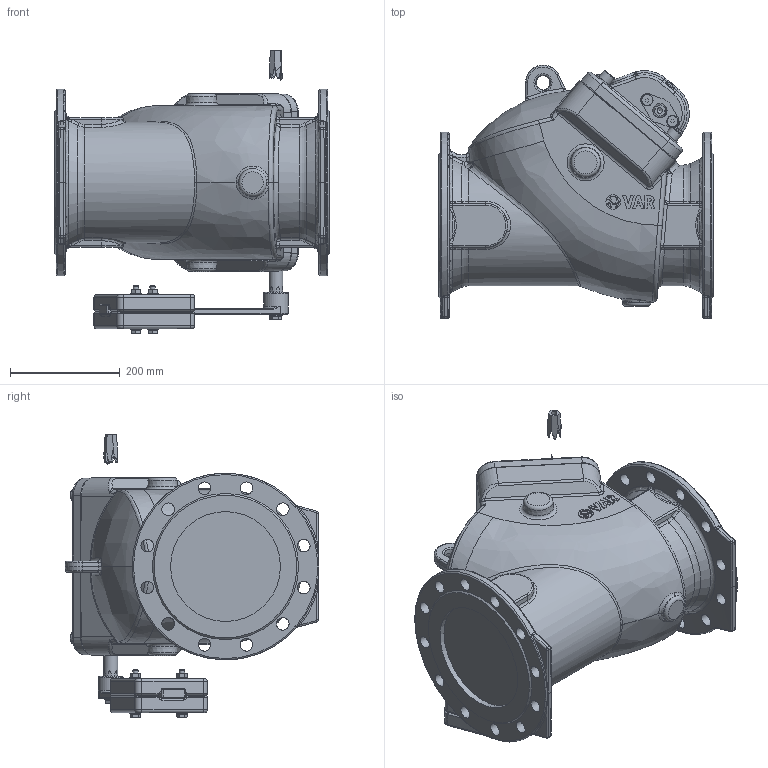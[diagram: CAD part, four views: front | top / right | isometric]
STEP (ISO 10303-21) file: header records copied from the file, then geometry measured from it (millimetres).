
FILE_DESCRIPTION(('STEP AP203'), '1');
FILE_NAME('VAR LIMU-STOP Îáðàòíûé êëàïàí DN 200 PN 16 c ðû÷àãîì è ïðîòèâîâåñîì', '2026-06-28T08:29:15', (' '), (' '), 'C3D Converter', 'C3D Toolkit', '');
FILE_SCHEMA(('CONFIG_CONTROL_DESIGN'));
Length unit declared in the file: millimetre
Products named in the file (1): Admi0C102497dluy
Bounding box: 500 x 461.96 x 514.4 mm (x, y, z)
Volume: 39795389.8 mm3; surface area: 1100393.5 mm2
Topology: 2 solids, 16 shells, 1275 faces, 3204 edges, 1976 vertices
Faces by surface type: plane 391, cylinder 289, bspline 246, extrusion 151, torus 102, cone 64, sphere 32
Full cylindrical faces by diameter (mm): 10 x12, 10.106 x2, 10.5 x4, 11 x4, 11.053 x1, 13 x1, 15.6 x2, 16 x4, 17 x4, 17.2 x1, 20 x8, 23 x24, 24 x5, 25 x3, 26 x2, 26.59 x1, 30 x4, 45 x1, 200 x2
Entity records: 89478 total; most frequent: CARTESIAN_POINT 53212, ORIENTED_EDGE 5984, DIRECTION 4575, EDGE_CURVE 2992, VERTEX_POINT 1937, AXIS2_PLACEMENT_3D 1683, EDGE_LOOP 1545, FACE_BOUND 1426
